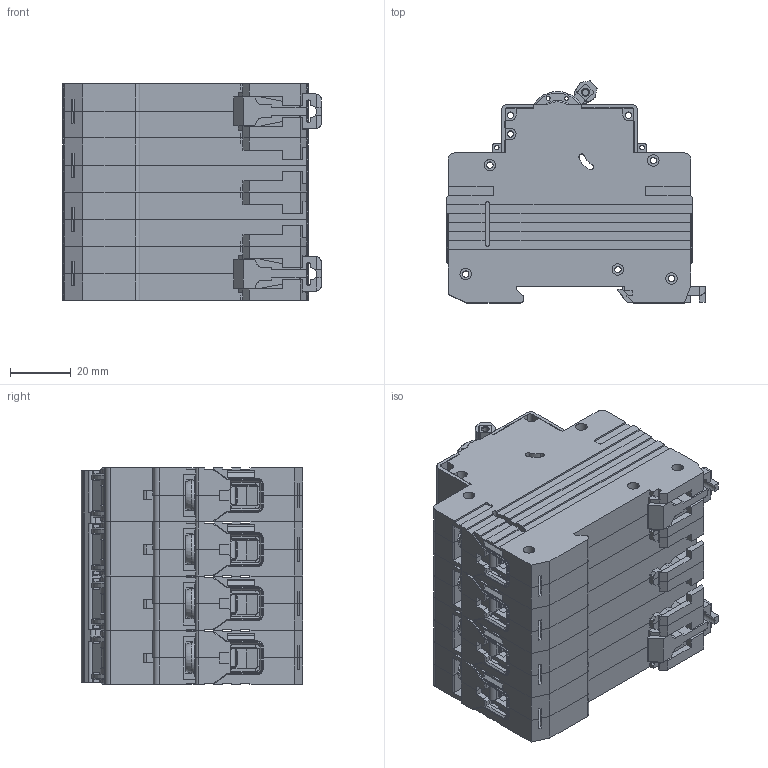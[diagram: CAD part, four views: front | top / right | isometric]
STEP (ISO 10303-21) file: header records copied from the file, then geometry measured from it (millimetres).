
FILE_DESCRIPTION (( 'STEP AP214' ), '1' );
FILE_NAME ('OptiDin 蟯63 - 4 瀁錌黟.STEP', '2022-11-15T06:14:07', ( '' ), ( '' ), 'SwSTEP 2.0', 'SolidWorks 2018', '' );
FILE_SCHEMA (( 'AUTOMOTIVE_DESIGN' ));
Length unit declared in the file: millimetre
Products named in the file (10): Ñêîáà ÃÆÈÊ.746442.011.step; Áîêîâèíà ëåâàÿ ÃÆÈÊ.735224.139 (ïóñòàÿ).step; Áîêîâèíà ïðàâàÿ ÃÆÈÊ.735224.140 (ïóñòàÿ).step; Ðó÷êà ÃÆÈÊ.753725.016; 蟯63_1; OptiDin 蟯63 - 4 瀁錌黟; Çàù¸ëêà ÃÆÈÊ.741358.031.step; Êîëîäêà ÃÆÈÊ.745418.015.step; ﾂ鏆鮏 ﾃﾆﾈﾊ.745315.008.step; 妈眚 闷仁.758151.057.step
Assembly tree (16 placements, depth 3):
  OptiDin 蟯63 - 4 瀁錌黟
    蟯63_1  x4
      Áîêîâèíà ïðàâàÿ ÃÆÈÊ.735224.140 (ïóñòàÿ).step
      Áîêîâèíà ëåâàÿ ÃÆÈÊ.735224.139 (ïóñòàÿ).step
      Ðó÷êà ÃÆÈÊ.753725.016
      ﾂ鏆鮏 ﾃﾆﾈﾊ.745315.008.step
      Êîëîäêà ÃÆÈÊ.745418.015.step
      妈眚 闷仁.758151.057.step
    Ñêîáà ÃÆÈÊ.746442.011.step
    Çàù¸ëêà ÃÆÈÊ.741358.031.step  x2
Bounding box: 85.5 x 73.33 x 71.6 mm (x, y, z)
Volume: 121879.5 mm3; surface area: 163492.4 mm2
Topology: 39 solids, 95 shells, 7029 faces, 19115 edges, 12392 vertices
Faces by surface type: plane 4992, cylinder 1857, cone 116, torus 48, bspline 16
Entity records: 57327 total; most frequent: CARTESIAN_POINT 9144, ORIENTED_EDGE 8628, DIRECTION 8335, EDGE_CURVE 4314, VECTOR 3317, LINE 3317, VERTEX_POINT 2814, AXIS2_PLACEMENT_3D 2509
